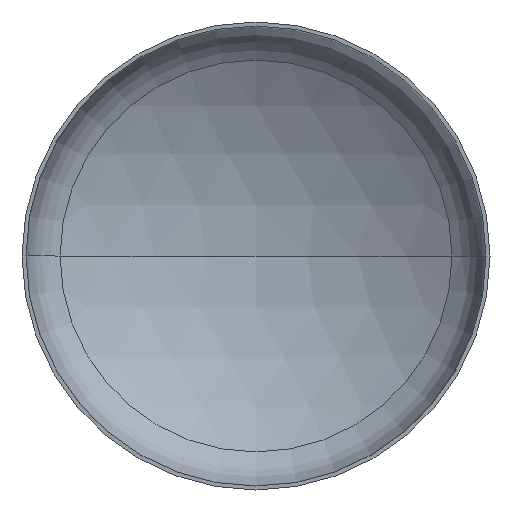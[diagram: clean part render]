
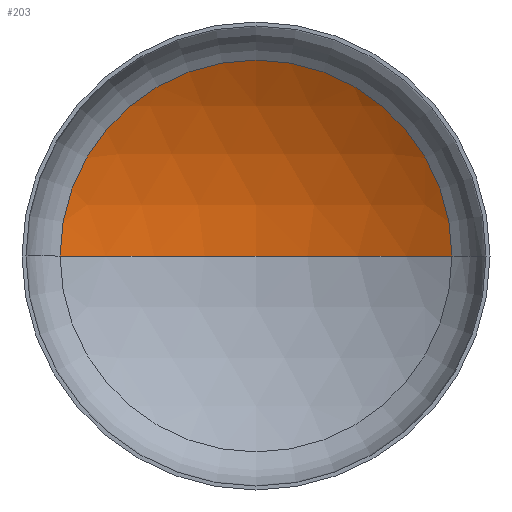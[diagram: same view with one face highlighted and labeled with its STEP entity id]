
A CAD part, front view. The second image highlights one B-rep face of the part: STEP entity #203.
In plain terms, the highlighted spherical face has radius 2560 mm.
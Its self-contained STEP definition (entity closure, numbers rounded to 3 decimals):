
#1 = VERTEX_POINT ( 'NONE', #246 ) ;
#2 = DIRECTION ( 'NONE',  ( 0., 0., -1. ) ) ;
#6 = AXIS2_PLACEMENT_3D ( 'NONE', #386, #163, #337 ) ;
#20 = EDGE_LOOP ( 'NONE', ( #132, #79, #58 ) ) ;
#28 = AXIS2_PLACEMENT_3D ( 'NONE', #269, #273, #404 ) ;
#33 = AXIS2_PLACEMENT_3D ( 'NONE', #155, #111, #304 ) ;
#54 = AXIS2_PLACEMENT_3D ( 'NONE', #86, #2, #271 ) ;
#58 = ORIENTED_EDGE ( 'NONE', *, *, #330, .T. ) ;
#79 = ORIENTED_EDGE ( 'NONE', *, *, #338, .T. ) ;
#86 = CARTESIAN_POINT ( 'NONE',  ( 0., -1679.089, 0. ) ) ;
#111 = DIRECTION ( 'NONE',  ( 0., -1., 0. ) ) ;
#123 = VERTEX_POINT ( 'NONE', #333 ) ;
#132 = ORIENTED_EDGE ( 'NONE', *, *, #388, .F. ) ;
#155 = CARTESIAN_POINT ( 'NONE',  ( 0., 502.586, 0. ) ) ;
#157 = VERTEX_POINT ( 'NONE', #200 ) ;
#163 = DIRECTION ( 'NONE',  ( 0., 0., 1. ) ) ;
#200 = CARTESIAN_POINT ( 'NONE',  ( 0., 880.911, 0. ) ) ;
#203 = ADVANCED_FACE ( 'NONE', ( #344 ), #395, .F. ) ;
#246 = CARTESIAN_POINT ( 'NONE',  ( -1339.362, 502.586, 0. ) ) ;
#269 = CARTESIAN_POINT ( 'NONE',  ( 0., -1679.089, 0. ) ) ;
#271 = DIRECTION ( 'NONE',  ( -1., 0., 0. ) ) ;
#273 = DIRECTION ( 'NONE',  ( 0., 0., -1. ) ) ;
#287 = CIRCLE ( 'NONE', #6, 2560. ) ;
#304 = DIRECTION ( 'NONE',  ( 1., 0., 0. ) ) ;
#310 = CIRCLE ( 'NONE', #28, 2560. ) ;
#330 = EDGE_CURVE ( 'NONE', #123, #1, #379, .T. ) ;
#333 = CARTESIAN_POINT ( 'NONE',  ( 1339.362, 502.586, 0. ) ) ;
#337 = DIRECTION ( 'NONE',  ( 1., 0., 0. ) ) ;
#338 = EDGE_CURVE ( 'NONE', #157, #123, #310, .T. ) ;
#344 = FACE_OUTER_BOUND ( 'NONE', #20, .T. ) ;
#379 = CIRCLE ( 'NONE', #33, 1339.362 ) ;
#386 = CARTESIAN_POINT ( 'NONE',  ( 0., -1679.089, 0. ) ) ;
#388 = EDGE_CURVE ( 'NONE', #157, #1, #287, .T. ) ;
#395 = SPHERICAL_SURFACE ( 'NONE', #54, 2560. ) ;
#404 = DIRECTION ( 'NONE',  ( -1., 0., 0. ) ) ;
